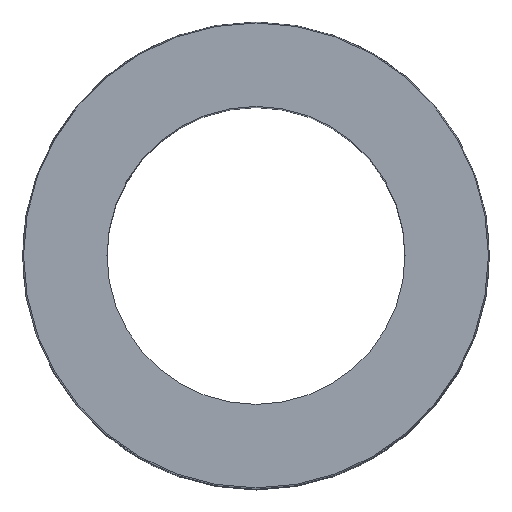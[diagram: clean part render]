
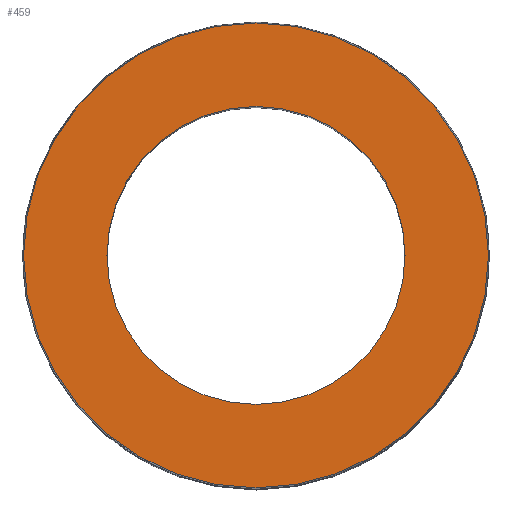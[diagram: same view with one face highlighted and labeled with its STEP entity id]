
A CAD part, top view. The second image highlights one B-rep face of the part: STEP entity #459.
In plain terms, the highlighted planar face has unit normal (0, 0, 1).
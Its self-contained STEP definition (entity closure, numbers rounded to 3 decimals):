
#49=CARTESIAN_POINT('',(-17.799,1.811,68.0));
#50=VERTEX_POINT('',#49);
#59=CARTESIAN_POINT('',(12.201,1.811,68.0));
#60=VERTEX_POINT('',#59);
#61=CARTESIAN_POINT('',(-2.799,1.811,68.0));
#62=DIRECTION('',(0.0,0.0,-1.0));
#63=DIRECTION('',(-1.0,0.0,0.0));
#64=AXIS2_PLACEMENT_3D('',#61,#62,#63);
#65=CIRCLE('',#64,15.0);
#66=EDGE_CURVE('',#60,#50,#65,.T.);
#235=CARTESIAN_POINT('',(-26.199,1.811,68.0));
#236=VERTEX_POINT('',#235);
#243=CARTESIAN_POINT('',(20.601,1.811,68.0));
#244=VERTEX_POINT('',#243);
#245=CARTESIAN_POINT('',(-2.799,1.811,68.0));
#246=DIRECTION('',(0.0,0.0,-1.0));
#247=DIRECTION('',(-1.0,0.0,0.0));
#248=AXIS2_PLACEMENT_3D('',#245,#246,#247);
#249=CIRCLE('',#248,23.4);
#250=EDGE_CURVE('',#236,#244,#249,.T.);
#412=CARTESIAN_POINT('',(-2.799,1.811,68.0));
#413=DIRECTION('',(0.0,0.0,-1.0));
#414=DIRECTION('',(-1.0,0.0,0.0));
#415=AXIS2_PLACEMENT_3D('',#412,#413,#414);
#416=CIRCLE('',#415,23.4);
#417=EDGE_CURVE('',#244,#236,#416,.T.);
#440=CARTESIAN_POINT('',(-2.799,1.811,68.0));
#441=DIRECTION('',(0.0,0.0,-1.0));
#442=DIRECTION('',(-1.0,0.0,0.0));
#443=AXIS2_PLACEMENT_3D('',#440,#441,#442);
#444=PLANE('',#443);
#445=ORIENTED_EDGE('',*,*,#417,.F.);
#446=ORIENTED_EDGE('',*,*,#250,.F.);
#447=EDGE_LOOP('',(#445,#446));
#448=FACE_OUTER_BOUND('',#447,.T.);
#449=ORIENTED_EDGE('',*,*,#66,.T.);
#450=CARTESIAN_POINT('',(-2.799,1.811,68.0));
#451=DIRECTION('',(0.0,0.0,-1.0));
#452=DIRECTION('',(-1.0,0.0,0.0));
#453=AXIS2_PLACEMENT_3D('',#450,#451,#452);
#454=CIRCLE('',#453,15.0);
#455=EDGE_CURVE('',#50,#60,#454,.T.);
#456=ORIENTED_EDGE('',*,*,#455,.T.);
#457=EDGE_LOOP('',(#449,#456));
#458=FACE_BOUND('',#457,.T.);
#459=ADVANCED_FACE('',(#448,#458),#444,.F.);
